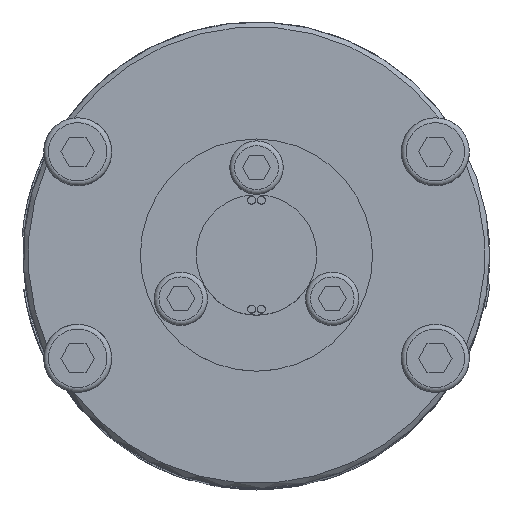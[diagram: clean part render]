
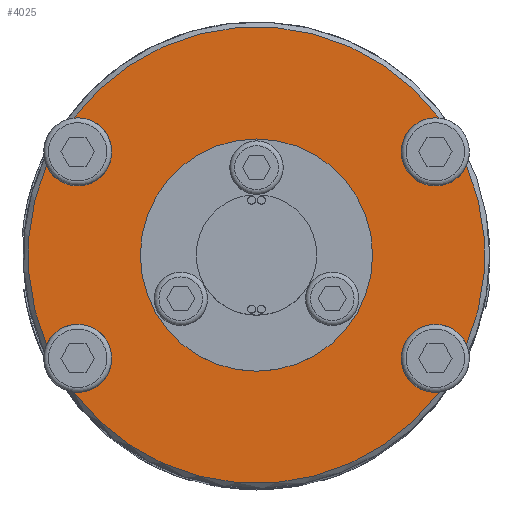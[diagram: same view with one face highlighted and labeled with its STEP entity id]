
A CAD part, top view. The second image highlights one B-rep face of the part: STEP entity #4025.
In plain terms, the highlighted planar face has unit normal (0, 0, 1).
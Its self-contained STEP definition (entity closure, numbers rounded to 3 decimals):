
#603=FACE_BOUND('',#6841,.T.);
#604=FACE_BOUND('',#6842,.T.);
#934=CIRCLE('',#20452,11.95);
#935=CIRCLE('',#20454,3.5);
#936=CIRCLE('',#20455,23.5);
#937=CIRCLE('',#20456,3.5);
#938=CIRCLE('',#20457,23.5);
#939=CIRCLE('',#20458,3.5);
#940=CIRCLE('',#20459,23.5);
#941=CIRCLE('',#20460,3.5);
#942=CIRCLE('',#20461,23.5);
#4025=ADVANCED_FACE('',(#603,#604),#4566,.T.);
#4566=PLANE('',#20462);
#6841=EDGE_LOOP('',(#12369,#12370,#12371,#12372,#12373,#12374,#12375,#12376));
#6842=EDGE_LOOP('',(#12377));
#12369=ORIENTED_EDGE('',*,*,#17156,.F.);
#12370=ORIENTED_EDGE('',*,*,#17157,.T.);
#12371=ORIENTED_EDGE('',*,*,#17158,.F.);
#12372=ORIENTED_EDGE('',*,*,#17159,.T.);
#12373=ORIENTED_EDGE('',*,*,#17160,.F.);
#12374=ORIENTED_EDGE('',*,*,#17161,.T.);
#12375=ORIENTED_EDGE('',*,*,#17162,.F.);
#12376=ORIENTED_EDGE('',*,*,#17163,.T.);
#12377=ORIENTED_EDGE('',*,*,#17155,.F.);
#14408=VERTEX_POINT('',#41081);
#14409=VERTEX_POINT('',#41084);
#14410=VERTEX_POINT('',#41085);
#14411=VERTEX_POINT('',#41087);
#14412=VERTEX_POINT('',#41089);
#14413=VERTEX_POINT('',#41091);
#14414=VERTEX_POINT('',#41093);
#14415=VERTEX_POINT('',#41095);
#14416=VERTEX_POINT('',#41097);
#17155=EDGE_CURVE('',#14408,#14408,#934,.T.);
#17156=EDGE_CURVE('',#14409,#14410,#935,.T.);
#17157=EDGE_CURVE('',#14409,#14411,#936,.T.);
#17158=EDGE_CURVE('',#14412,#14411,#937,.T.);
#17159=EDGE_CURVE('',#14412,#14413,#938,.T.);
#17160=EDGE_CURVE('',#14414,#14413,#939,.T.);
#17161=EDGE_CURVE('',#14414,#14415,#940,.T.);
#17162=EDGE_CURVE('',#14416,#14415,#941,.T.);
#17163=EDGE_CURVE('',#14416,#14410,#942,.T.);
#20452=AXIS2_PLACEMENT_3D('',#41080,#23447,#23448);
#20454=AXIS2_PLACEMENT_3D('',#41083,#23451,#23452);
#20455=AXIS2_PLACEMENT_3D('',#41086,#23453,#23454);
#20456=AXIS2_PLACEMENT_3D('',#41088,#23455,#23456);
#20457=AXIS2_PLACEMENT_3D('',#41090,#23457,#23458);
#20458=AXIS2_PLACEMENT_3D('',#41092,#23459,#23460);
#20459=AXIS2_PLACEMENT_3D('',#41094,#23461,#23462);
#20460=AXIS2_PLACEMENT_3D('',#41096,#23463,#23464);
#20461=AXIS2_PLACEMENT_3D('',#41098,#23465,#23466);
#20462=AXIS2_PLACEMENT_3D('',#41099,#23467,#23468);
#23447=DIRECTION('',(0.,0.,1.));
#23448=DIRECTION('',(0.,1.,0.));
#23451=DIRECTION('',(0.,0.,1.));
#23452=DIRECTION('',(1.,0.,0.));
#23453=DIRECTION('',(0.,0.,1.));
#23454=DIRECTION('',(1.,0.,0.));
#23455=DIRECTION('',(0.,0.,1.));
#23456=DIRECTION('',(1.,0.,0.));
#23457=DIRECTION('',(0.,0.,1.));
#23458=DIRECTION('',(1.,0.,0.));
#23459=DIRECTION('',(0.,0.,1.));
#23460=DIRECTION('',(1.,0.,0.));
#23461=DIRECTION('',(0.,0.,1.));
#23462=DIRECTION('',(1.,0.,0.));
#23463=DIRECTION('',(0.,0.,1.));
#23464=DIRECTION('',(1.,0.,0.));
#23465=DIRECTION('',(0.,0.,1.));
#23466=DIRECTION('',(1.,0.,0.));
#23467=DIRECTION('',(0.,0.,1.));
#23468=DIRECTION('',(1.,0.,0.));
#41080=CARTESIAN_POINT('',(0.,0.,114.));
#41081=CARTESIAN_POINT('',(0.,11.95,114.));
#41083=CARTESIAN_POINT('',(-18.403,-10.625,114.));
#41084=CARTESIAN_POINT('',(-18.798,-14.103,114.));
#41085=CARTESIAN_POINT('',(-21.612,-9.228,114.));
#41086=CARTESIAN_POINT('',(0.,0.,114.));
#41087=CARTESIAN_POINT('',(18.798,-14.103,114.));
#41088=CARTESIAN_POINT('',(18.403,-10.625,114.));
#41089=CARTESIAN_POINT('',(21.612,-9.228,114.));
#41090=CARTESIAN_POINT('',(0.,0.,114.));
#41091=CARTESIAN_POINT('',(21.612,9.228,114.));
#41092=CARTESIAN_POINT('',(18.403,10.625,114.));
#41093=CARTESIAN_POINT('',(18.798,14.103,114.));
#41094=CARTESIAN_POINT('',(0.,0.,114.));
#41095=CARTESIAN_POINT('',(-18.798,14.103,114.));
#41096=CARTESIAN_POINT('',(-18.403,10.625,114.));
#41097=CARTESIAN_POINT('',(-21.612,9.228,114.));
#41098=CARTESIAN_POINT('',(0.,0.,114.));
#41099=CARTESIAN_POINT('',(0.,0.,114.));
